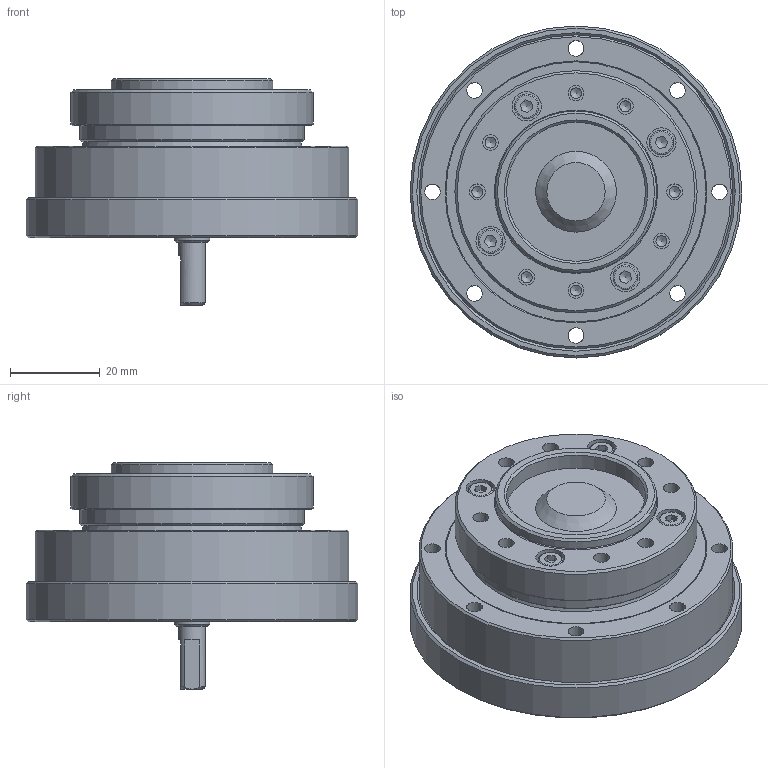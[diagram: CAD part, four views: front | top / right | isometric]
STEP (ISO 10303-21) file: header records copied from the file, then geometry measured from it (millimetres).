
FILE_DESCRIPTION(/* description */ (''),/* implementation_level */ '2;1');
FILE_NAME(/* name */ 'S:\TB00F\研發課二組\機密級\1.\X2\8A2D8A08\X0\\01-DT\DT圖面-y\2.組合圖\\X2\6A21578B\X0\\WTI-S-XX-AJ\WTI-S-14-80-AJ.stp',/* time_stamp */ '2021-02-01T16:36:11+08:00',/* author */ ('yin210'),/* organization */ (''),/* preprocessor_version */ 'ST-DEVELOPER v15.2',/* originating_system */ 'Autodesk Inventor 2014',/* authorisation */ '');
FILE_SCHEMA (('AUTOMOTIVE_DESIGN { 1 0 10303 214 3 1 1 }'));
Length unit declared in the file: centimetre
Products named in the file (1): WTI-S-14-80-AJ
Bounding box: 74 x 74 x 50.5 mm (x, y, z)
Volume: 106979.2 mm3; surface area: 22103.4 mm2
Topology: 1 solids, 13 shells, 266 faces, 577 edges, 379 vertices
Faces by surface type: plane 108, cylinder 82, cone 63, torus 11, bspline 2
Full cylindrical faces by diameter (mm): 1 x1, 2.459 x14, 3 x6, 3.5 x40, 5.5 x4, 5.7 x2, 6 x1, 6.5 x6, 8 x1, 31 x1, 36 x1, 50 x1, 54 x1, 58 x1, 70 x1, 74 x1
Entity records: 6004 total; most frequent: DIRECTION 1064, CARTESIAN_POINT 1049, ORIENTED_EDGE 692, AXIS2_PLACEMENT_3D 493, EDGE_LOOP 492, EDGE_CURVE 346, VERTEX_POINT 304, FACE_BOUND 275
